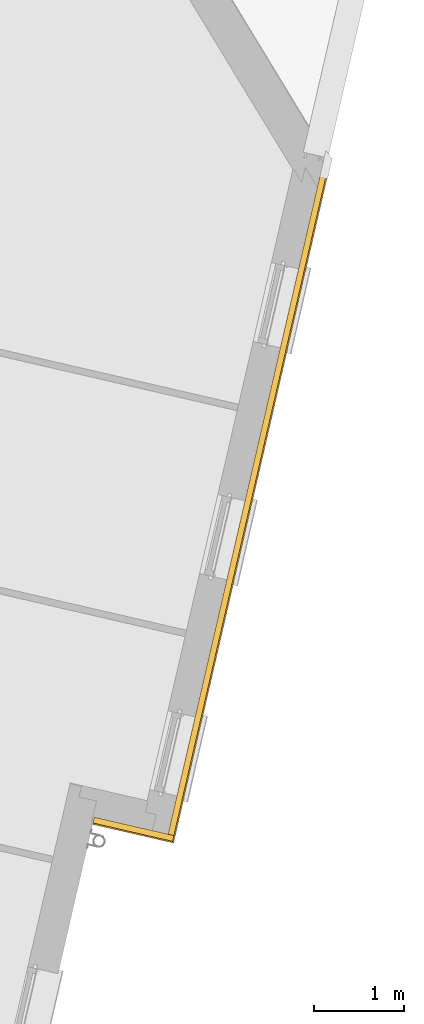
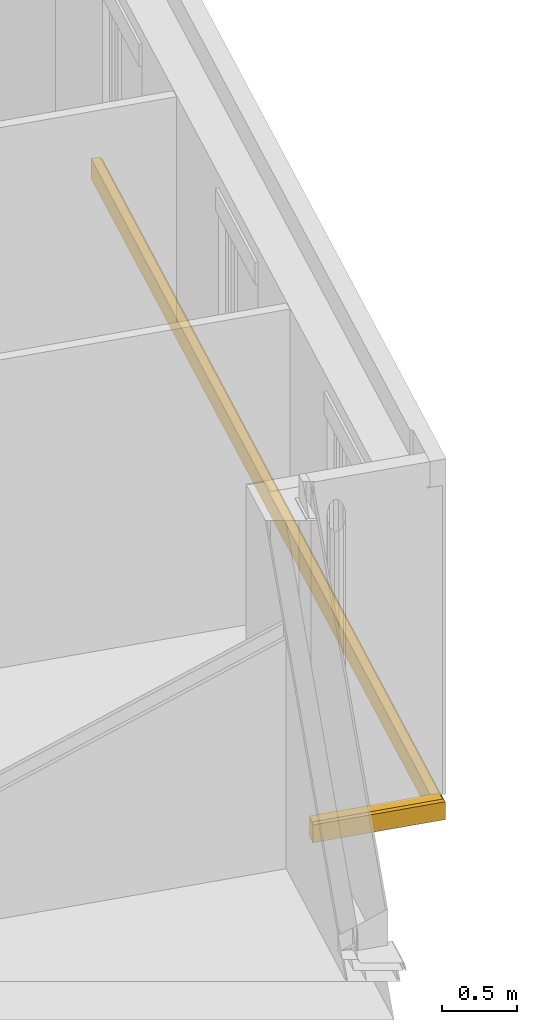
# One storey, part 62 of 91: 2 coverings.
"""IFC2X3 building model written with IfcOpenShell, lengths in metres."""

from ifc_helpers import new_model, entity, si_unit, converted_unit, derived_unit, money_unit, direction, frame, origin_with_axes, place, context, subcontext, project, spatial, faceted_brep, material, type_object, element, save


model = new_model("IFC2X3")

# Units and contexts
model_context = context("Model", 3, precision=1e-05, world=origin_with_axes(), true_north=direction((0.0, 1.0)))
body_context = subcontext(model_context, "Body", "Model", "MODEL_VIEW")
ifc_project = project(units=[si_unit("LENGTHUNIT", "METRE"), si_unit("AREAUNIT", "SQUARE_METRE"), si_unit("VOLUMEUNIT", "CUBIC_METRE"), converted_unit("PLANEANGLEUNIT", "DEGREE", entity("IfcPlaneAngleMeasure", 0.0174532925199), si_unit("PLANEANGLEUNIT", "RADIAN"), dimensions=[0, 0, 0, 0, 0, 0, 0]), si_unit("SOLIDANGLEUNIT", "STERADIAN"), money_unit("EUR"), converted_unit("TIMEUNIT", "Year", entity("IfcTimeMeasure", 31556926.0), si_unit("TIMEUNIT", "SECOND"), dimensions=[0, 0, 1, 0, 0, 0, 0]), si_unit("MASSUNIT", "GRAM", prefix="KILO"), si_unit("THERMODYNAMICTEMPERATUREUNIT", "DEGREE_CELSIUS"), si_unit("LUMINOUSINTENSITYUNIT", "LUMEN"), si_unit("ENERGYUNIT", "JOULE", prefix="MEGA"), derived_unit("THERMALCONDUCTANCEUNIT", [(si_unit("POWERUNIT", "WATT"), 1), (si_unit("LENGTHUNIT", "METRE"), -1), (si_unit("THERMODYNAMICTEMPERATUREUNIT", "KELVIN"), -1)]), derived_unit("SPECIFICHEATCAPACITYUNIT", [(si_unit("ENERGYUNIT", "JOULE"), 1), (si_unit("MASSUNIT", "GRAM", prefix="KILO"), -1), (si_unit("THERMODYNAMICTEMPERATUREUNIT", "KELVIN"), -1)]), derived_unit("MASSDENSITYUNIT", [(si_unit("MASSUNIT", "GRAM", prefix="KILO"), 1), (si_unit("VOLUMEUNIT", "CUBIC_METRE"), -1)])], contexts=[model_context])

# Site, building, storey
site_placement = place(None, origin_with_axes())
site = spatial("IfcSite", under=ifc_project, at=site_placement, Name="Site", CompositionType="ELEMENT")
building_placement = place(site_placement, origin_with_axes())
building = spatial("IfcBuilding", under=site, at=building_placement, Name="Bâtiment", CompositionType="ELEMENT")
storey_placement = place(building_placement, frame((0.0, 0.0, 5.44), z_axis=(0.0, 0.0, 1.0), x_axis=(1.0, 0.0, 0.0)))
storey = spatial("IfcBuildingStorey", under=building, at=storey_placement, Name="R+2", CompositionType="ELEMENT", Elevation=5.44)

# Coverings
ifc_material = material(Name="Finition sol - Carrelage")
covering_type = type_object("IfcCoveringType", Name="Bandeau de façade composite 80 x 165", PredefinedType="USERDEFINED")
covering_1_placement = place(storey_placement, frame((-0.236273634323, 6.36604879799, -0.21), z_axis=(0.0, 0.0, 1.0), x_axis=(-0.974387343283, 0.224876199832, 0.0)))
element("IfcCovering", 1, at=covering_1_placement, inside=storey, type_object=covering_type, material=ifc_material, Name="Bandeaux de façade préfa composite", ObjectType="MOLDING", PredefinedType="USERDEFINED", context=body_context, shape_type="Brep", body=[
    faceted_brep([(0.0, -0.0258592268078, 0.00621912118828), (0.0177527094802, -0.0258592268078, 0.00621912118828), (0.0177527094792, -0.08, 0.00621912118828), (0.0, -0.08, 0.00621912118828), (0.920808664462, -0.0258592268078, 0.00621912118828), (0.0258592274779, -0.0258592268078, 0.00621912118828), (1.78780923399e-09, -0.0177527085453, 0.00621912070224), (0.920808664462, -0.0177527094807, 0.00621912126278), (0.0258592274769, -0.08, 0.00621912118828), (0.0310590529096, -0.08, 0.0), (0.920808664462, -0.08, 0.0), (0.920808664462, -0.08, 0.00621912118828), (0.920808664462, -0.08, 0.00999999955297), (0.920808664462, -0.08, 0.165), (0.0799999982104, -0.08, 0.164999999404), (0.0142855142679, -0.08, 0.160000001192), (1.78664327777e-09, -0.08, 0.144794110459), (1.78814141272e-09, 0.0, 0.144794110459), (1.78814096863e-09, 0.0, 0.0), (1.78790604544e-09, -0.0125528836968, 0.0), (0.920808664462, -0.03105905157, 0.0), (0.0310590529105, -0.03105905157, 0.0), (0.920808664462, -0.012552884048, 0.0), (0.920808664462, 0.0, 0.00621912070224), (0.920808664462, 0.0, 0.00999999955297), (0.920808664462, 0.0, 0.144794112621), (0.920808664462, -0.0142855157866, 0.160000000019), (0.0142855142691, -0.0142855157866, 0.160000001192), (0.920808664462, 0.0, 0.0)], [[[0, 1, 2, 3]], [[4, 5, 1, 0, 6, 7]], [[5, 8, 2, 1]], [[2, 8, 9, 10, 11, 12, 13, 14, 15, 16, 3]], [[6, 0, 3, 16, 17, 18, 19]], [[20, 21, 5, 4]], [[19, 22, 7, 6]], [[12, 11, 4, 7, 23, 24]], [[21, 9, 8, 5]], [[10, 9, 21, 20]], [[20, 4, 11, 10]], [[25, 26, 13, 12, 24]], [[14, 13, 26, 27]], [[14, 27, 15]], [[27, 17, 16, 15]], [[24, 23, 28, 18, 17, 25]], [[18, 28, 22, 19]], [[28, 23, 7, 22]], [[27, 26, 25, 17]]]),
])
covering_2_placement = place(storey_placement, frame((-0.236273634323, 6.36604879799, -0.21), z_axis=(0.0, 0.0, 1.0), x_axis=(0.22487619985, 0.974387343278, 0.0)))
element("IfcCovering", 2, at=covering_2_placement, inside=storey, type_object=covering_type, material=ifc_material, Name="Bandeaux de façade préfa composite", ObjectType="MOLDING", PredefinedType="USERDEFINED", context=body_context, shape_type="Brep", body=[
    faceted_brep([(0.0258592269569, 0.0177527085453, 0.00621912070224), (0.0177527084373, 0.0177527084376, 0.00621912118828), (0.0177527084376, 0.0, 0.00621912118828), (0.0258592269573, 0.0, 0.00621912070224), (7.79342705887, 0.0125528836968, 0.0), (0.0125528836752, 0.0125528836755, 0.0), (0.0799999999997, 0.0177527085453, 0.00621912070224), (7.79342705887, 0.0177527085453, 0.00621912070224), (0.0125528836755, 0.0, 0.0), (7.79342705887, 0.0, 0.0), (7.79342705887, 0.0, 0.144794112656), (0.08, 0.0, 0.144794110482), (0.08, 0.0, 0.00621912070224), (0.0799999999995, 0.0258592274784, 0.00621912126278), (7.79342705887, 0.0258592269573, 0.00621912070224), (7.79342705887, 0.0310590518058, 0.0), (7.79342705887, 0.08, 0.0), (7.79342705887, 0.08, 0.165), (7.79342705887, 0.0142855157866, 0.16), (0.0799999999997, 0.0142855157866, 0.160000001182), (0.0799999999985, 0.08, 0.165), (0.0799999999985, 0.08, 0.00621912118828), (0.0799999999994, 0.0310590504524, 0.0), (0.0799999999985, 0.08, 0.0)], [[[0, 1, 2, 3]], [[4, 5, 1, 0, 6, 7]], [[5, 8, 2, 1]], [[3, 2, 8, 9, 10, 11, 12]], [[0, 3, 12, 6]], [[9, 8, 5, 4]], [[7, 6, 13, 14]], [[15, 16, 17, 18, 10, 9, 4, 7, 14]], [[18, 19, 11, 10]], [[20, 21, 13, 6, 12, 11, 19]], [[14, 13, 22, 15]], [[15, 22, 23, 16]], [[16, 23, 21, 20, 17]], [[17, 20, 19, 18]], [[23, 22, 13, 21]]]),
])

save(model, "model.ifc")
